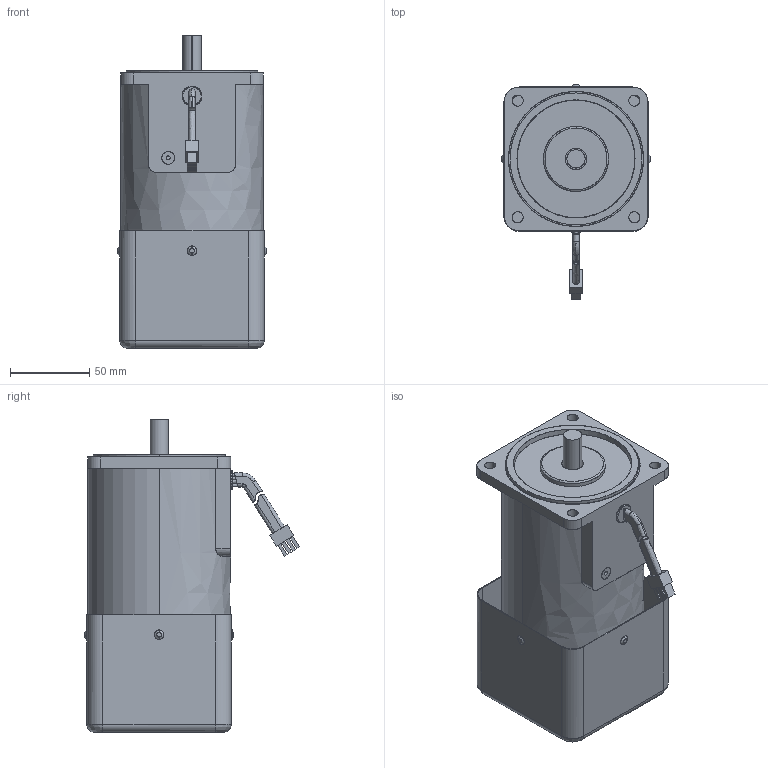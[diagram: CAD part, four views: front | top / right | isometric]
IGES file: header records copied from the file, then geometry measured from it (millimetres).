
Start section: SolidWorks IGES file using analytic representation for surfaces
Global section: file name: \\楷备家烹钦辑滚\data (D)\档搁 枚\权其捞瘤 档搁\7. SPEED INDUCTION\90\120W\(7-100) 9SDG∴-120F2H.IGS; native system: SolidWorks 2007; preprocessor: SolidWorks 2007; author: user; date: 150707.175521; units: millimetre
Bounding box: 94 x 135.4 x 197 mm (x, y, z)
Surface area: 175319.6 mm2 (no closed solid volume)
Topology: 0 solids, 0 shells, 394 faces, 6996 edges, 6996 vertices
Faces by surface type: revolution 238, bspline 156
